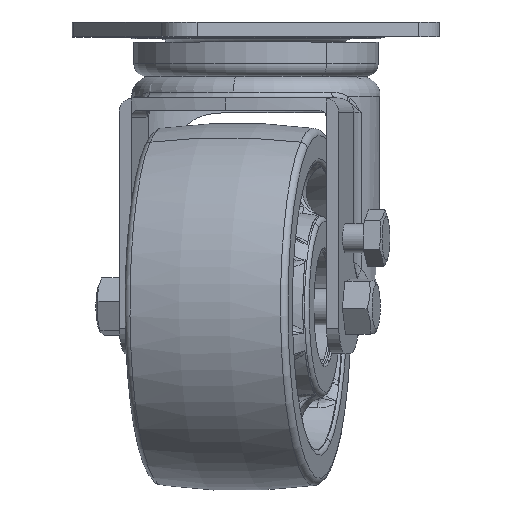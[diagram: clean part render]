
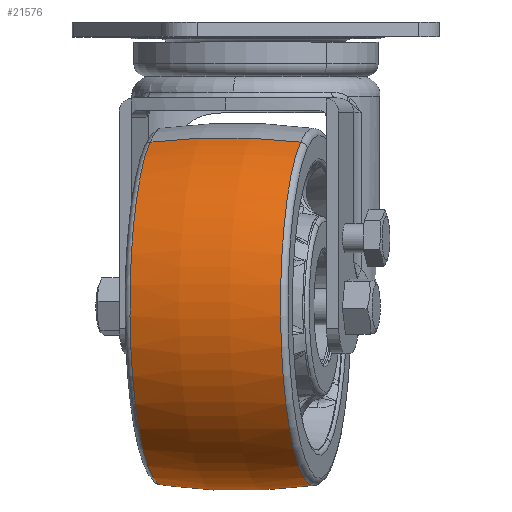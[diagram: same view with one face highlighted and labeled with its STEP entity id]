
A CAD part, top view. The second image highlights one B-rep face of the part: STEP entity #21576.
In plain terms, the highlighted toroidal (fillet/blend) face has major radius 114 mm and minor radius 165 mm.
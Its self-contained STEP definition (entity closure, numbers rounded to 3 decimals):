
#583 = AXIS2_PLACEMENT_3D ( 'NONE', #1362, #15285, #3365 ) ;
#1101 = VERTEX_POINT ( 'NONE', #19909 ) ;
#1333 = DIRECTION ( 'NONE',  ( 0., -1., 0. ) ) ;
#1362 = CARTESIAN_POINT ( 'NONE',  ( 0., 0., 114. ) ) ;
#1942 = CARTESIAN_POINT ( 'NONE',  ( -21.258, 0., 0. ) ) ;
#2657 = DIRECTION ( 'NONE',  ( -1., 0., 0. ) ) ;
#3365 = DIRECTION ( 'NONE',  ( 0., 0., 1. ) ) ;
#3529 = ORIENTED_EDGE ( 'NONE', *, *, #8712, .F. ) ;
#3854 = CIRCLE ( 'NONE', #583, 165. ) ;
#3948 = DIRECTION ( 'NONE',  ( 0., 0., 1. ) ) ;
#4097 = EDGE_CURVE ( 'NONE', #7321, #14280, #14425, .T. ) ;
#4317 = AXIS2_PLACEMENT_3D ( 'NONE', #1942, #15864, #3948 ) ;
#6364 = FACE_OUTER_BOUND ( 'NONE', #13736, .T. ) ;
#6554 = AXIS2_PLACEMENT_3D ( 'NONE', #13266, #1333, #15254 ) ;
#7321 = VERTEX_POINT ( 'NONE', #16182 ) ;
#8605 = CARTESIAN_POINT ( 'NONE',  ( 21.258, 0., 0. ) ) ;
#8712 = EDGE_CURVE ( 'NONE', #14280, #1101, #9820, .T. ) ;
#9422 = ORIENTED_EDGE ( 'NONE', *, *, #15405, .T. ) ;
#9820 = CIRCLE ( 'NONE', #4317, 49.625 ) ;
#9870 = VERTEX_POINT ( 'NONE', #23482 ) ;
#10578 = DIRECTION ( 'NONE',  ( 0., 0., 1. ) ) ;
#10714 = AXIS2_PLACEMENT_3D ( 'NONE', #8605, #22486, #10578 ) ;
#12267 = TOROIDAL_SURFACE ( 'NONE', #14669, -114., 165. ) ;
#13266 = CARTESIAN_POINT ( 'NONE',  ( 0., 0., -114. ) ) ;
#13736 = EDGE_LOOP ( 'NONE', ( #24563, #9422, #3529, #24651 ) ) ;
#14059 = CIRCLE ( 'NONE', #10714, 49.625 ) ;
#14280 = VERTEX_POINT ( 'NONE', #20168 ) ;
#14425 = CIRCLE ( 'NONE', #6554, 165. ) ;
#14562 = CARTESIAN_POINT ( 'NONE',  ( 0., 0., 0. ) ) ;
#14669 = AXIS2_PLACEMENT_3D ( 'NONE', #14562, #2657, #16583 ) ;
#15254 = DIRECTION ( 'NONE',  ( 0., 0., -1. ) ) ;
#15285 = DIRECTION ( 'NONE',  ( 0., 1., 0. ) ) ;
#15405 = EDGE_CURVE ( 'NONE', #9870, #1101, #3854, .T. ) ;
#15864 = DIRECTION ( 'NONE',  ( -1., 0., 0. ) ) ;
#16182 = CARTESIAN_POINT ( 'NONE',  ( 21.258, 0., 49.625 ) ) ;
#16583 = DIRECTION ( 'NONE',  ( 0., 0., 1. ) ) ;
#19909 = CARTESIAN_POINT ( 'NONE',  ( -21.258, 0., -49.625 ) ) ;
#20168 = CARTESIAN_POINT ( 'NONE',  ( -21.258, 0., 49.625 ) ) ;
#21576 = ADVANCED_FACE ( 'NONE', ( #6364 ), #12267, .T. ) ;
#22486 = DIRECTION ( 'NONE',  ( -1., 0., 0. ) ) ;
#23482 = CARTESIAN_POINT ( 'NONE',  ( 21.258, 0., -49.625 ) ) ;
#24045 = EDGE_CURVE ( 'NONE', #7321, #9870, #14059, .T. ) ;
#24563 = ORIENTED_EDGE ( 'NONE', *, *, #24045, .T. ) ;
#24651 = ORIENTED_EDGE ( 'NONE', *, *, #4097, .F. ) ;
